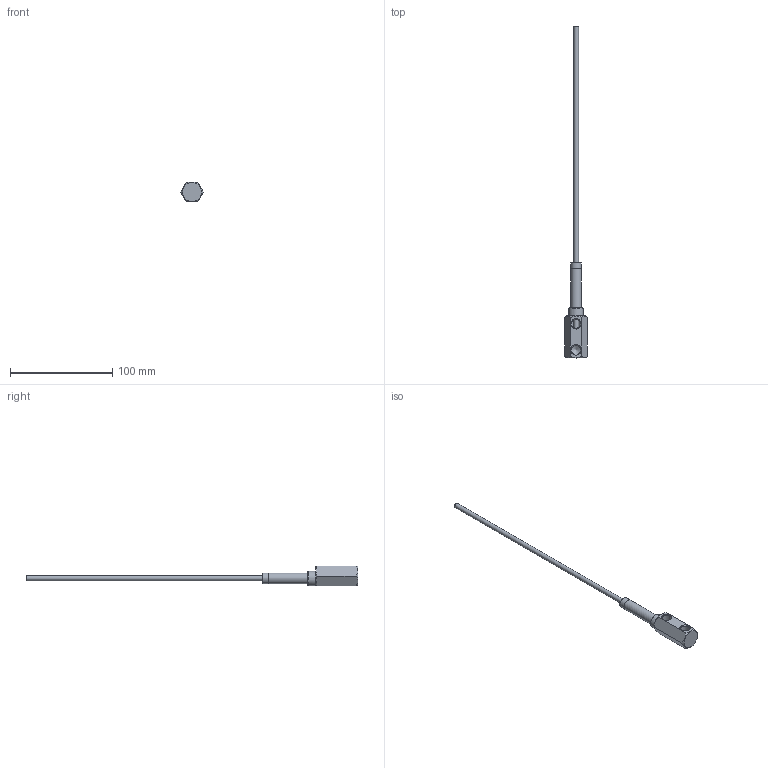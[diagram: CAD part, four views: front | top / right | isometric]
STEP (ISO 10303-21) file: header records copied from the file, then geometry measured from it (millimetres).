
FILE_DESCRIPTION(/* description */ (''),/* implementation_level */ '2;1');
FILE_NAME(/* name */ 'C:/Users/drich/Desktop/HF181N v1.step',/* time_stamp */ '2020-01-15T19:34:50-06:00',/* author */ (''),/* organization */ (''),/* preprocessor_version */ 'ST-DEVELOPER v18',/* originating_system */ 'Autodesk Translation Framework v8.12.0.6',/* authorisation */ '');
FILE_SCHEMA (('AUTOMOTIVE_DESIGN { 1 0 10303 214 3 1 1 }'));
Length unit declared in the file: inch
Products named in the file (4): HF181N; HF181H; SSPN18-2; HF187T-12
Assembly tree (3 placements, depth 2):
  HF181N
    HF181H
    SSPN18-2
    HF187T-12
Bounding box: 22 x 324.47 x 19.05 mm (x, y, z)
Volume: 14547.2 mm3; surface area: 16413 mm2
Topology: 3 solids, 3 shells, 47 faces, 118 edges, 81 vertices
Faces by surface type: plane 18, cone 13, cylinder 13, torus 3
Full cylindrical faces by diameter (mm): 4.242 x1, 4.75 x1, 5.474 x1, 6.243 x1, 6.401 x1, 6.833 x1, 8.707 x3, 10.262 x2, 10.312 x1, 14.275 x1
Entity records: 1617 total; most frequent: CARTESIAN_POINT 325, DIRECTION 276, ORIENTED_EDGE 234, AXIS2_PLACEMENT_3D 123, EDGE_CURVE 117, VERTEX_POINT 81, CIRCLE 67, EDGE_LOOP 60
